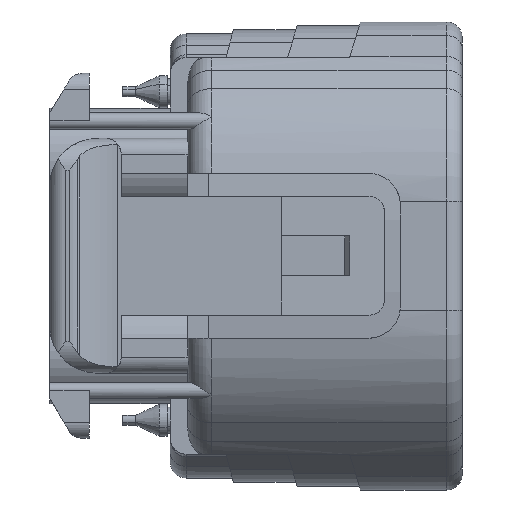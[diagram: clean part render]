
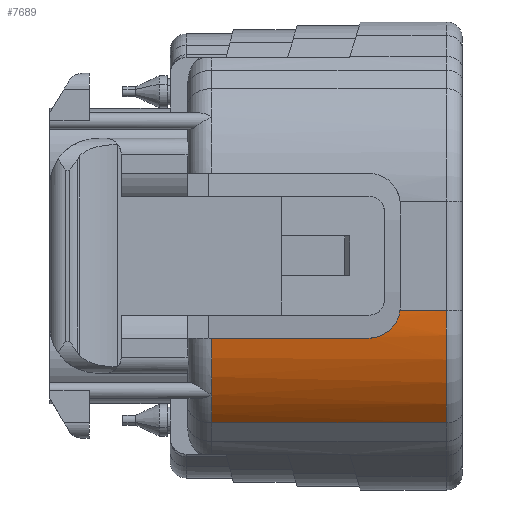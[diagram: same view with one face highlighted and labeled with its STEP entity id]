
A CAD part, top view. The second image highlights one B-rep face of the part: STEP entity #7689.
In plain terms, the highlighted cylindrical face has radius 10 mm (diameter 20 mm), a partial arc.
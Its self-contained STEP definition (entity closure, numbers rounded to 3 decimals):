
#1576=CARTESIAN_POINT('Vertex',(-13.8,-2.766,7.766)) ;
#2400=CARTESIAN_POINT('Axis2P3D Location',(-13.8,2.557,-0.7)) ;
#2404=CARTESIAN_POINT('Vertex',(-13.8,0.8,9.145)) ;
#2567=CARTESIAN_POINT('Vertex',(-13.8,-4.532,6.354)) ;
#2570=CARTESIAN_POINT('Axis2P3D Location',(-13.8,2.557,-0.7)) ;
#4863=CARTESIAN_POINT('Control Point',(-1.915,2.557,9.3)) ;
#4864=CARTESIAN_POINT('Control Point',(-1.986,1.98,9.3)) ;
#4865=CARTESIAN_POINT('Control Point',(-2.266,1.43,9.259)) ;
#4866=CARTESIAN_POINT('Control Point',(-2.739,1.011,9.182)) ;
#4867=CARTESIAN_POINT('Control Point',(-3.319,0.8,9.145)) ;
#4868=CARTESIAN_POINT('Control Point',(-3.9,0.8,9.145)) ;
#4869=CARTESIAN_POINT('Vertex',(-1.915,2.557,9.3)) ;
#4871=CARTESIAN_POINT('Vertex',(-3.9,0.8,9.145)) ;
#6300=CARTESIAN_POINT('Line Origine',(-8.85,0.8,9.145)) ;
#7656=CARTESIAN_POINT('Axis2P3D Location',(-6.65,2.557,-0.7)) ;
#7661=CARTESIAN_POINT('Line Origine',(-6.65,2.557,9.3)) ;
#7665=CARTESIAN_POINT('Vertex',(1.,2.557,9.3)) ;
#7668=CARTESIAN_POINT('Line Origine',(-6.65,-4.532,6.354)) ;
#7672=CARTESIAN_POINT('Vertex',(1.,-4.532,6.354)) ;
#7675=CARTESIAN_POINT('Axis2P3D Location',(1.,2.557,-0.7)) ;
#2401=DIRECTION('Axis2P3D Direction',(1.,-0.,0.)) ;
#2571=DIRECTION('Axis2P3D Direction',(1.,-0.,0.)) ;
#6301=DIRECTION('Vector Direction',(-1.,0.,0.)) ;
#7657=DIRECTION('Axis2P3D Direction',(1.,0.,0.)) ;
#7658=DIRECTION('Axis2P3D XDirection',(0.,0.,1.)) ;
#7662=DIRECTION('Vector Direction',(1.,0.,0.)) ;
#7669=DIRECTION('Vector Direction',(1.,0.,0.)) ;
#7676=DIRECTION('Axis2P3D Direction',(1.,0.,0.)) ;
#2402=AXIS2_PLACEMENT_3D('Circle Axis2P3D',#2400,#2401,$) ;
#2572=AXIS2_PLACEMENT_3D('Circle Axis2P3D',#2570,#2571,$) ;
#7659=AXIS2_PLACEMENT_3D('Cylinder Axis2P3D',#7656,#7657,#7658) ;
#7677=AXIS2_PLACEMENT_3D('Circle Axis2P3D',#7675,#7676,$) ;
#7681=ORIENTED_EDGE('',*,*,#7667,.T.) ;
#7682=ORIENTED_EDGE('',*,*,#4873,.T.) ;
#7683=ORIENTED_EDGE('',*,*,#6304,.T.) ;
#7684=ORIENTED_EDGE('',*,*,#2406,.T.) ;
#7685=ORIENTED_EDGE('',*,*,#2574,.T.) ;
#7686=ORIENTED_EDGE('',*,*,#7674,.F.) ;
#7687=ORIENTED_EDGE('',*,*,#7679,.F.) ;
#6302=VECTOR('Line Direction',#6301,1.) ;
#7663=VECTOR('Line Direction',#7662,1.) ;
#7670=VECTOR('Line Direction',#7669,1.) ;
#7689=ADVANCED_FACE('\X2\FF8AFF9FFF70FF82\X0\ \X2\FF8EFF9EFF83FF9EFF68FF70\X0\',(#7688),#7660,.T.) ;
#4862=B_SPLINE_CURVE_WITH_KNOTS('',5,(#4863,#4864,#4865,#4866,#4867,#4868),.UNSPECIFIED.,.F.,.U.,(6,6),(0.,4.105),.UNSPECIFIED.) ;
#2403=CIRCLE('generated circle',#2402,10.) ;
#2573=CIRCLE('generated circle',#2572,10.) ;
#7678=CIRCLE('generated circle',#7677,10.) ;
#7660=CYLINDRICAL_SURFACE('generated cylinder',#7659,10.) ;
#2406=EDGE_CURVE('',#2405,#1577,#2403,.T.) ;
#2574=EDGE_CURVE('',#1577,#2568,#2573,.T.) ;
#4873=EDGE_CURVE('',#4870,#4872,#4862,.T.) ;
#6304=EDGE_CURVE('',#4872,#2405,#6303,.T.) ;
#7667=EDGE_CURVE('',#7666,#4870,#7664,.F.) ;
#7674=EDGE_CURVE('',#7673,#2568,#7671,.F.) ;
#7679=EDGE_CURVE('',#7666,#7673,#7678,.T.) ;
#7680=EDGE_LOOP('',(#7681,#7682,#7683,#7684,#7685,#7686,#7687)) ;
#7688=FACE_OUTER_BOUND('',#7680,.T.) ;
#6303=LINE('Line',#6300,#6302) ;
#7664=LINE('Line',#7661,#7663) ;
#7671=LINE('Line',#7668,#7670) ;
#1577=VERTEX_POINT('',#1576) ;
#2405=VERTEX_POINT('',#2404) ;
#2568=VERTEX_POINT('',#2567) ;
#4870=VERTEX_POINT('',#4869) ;
#4872=VERTEX_POINT('',#4871) ;
#7666=VERTEX_POINT('',#7665) ;
#7673=VERTEX_POINT('',#7672) ;
